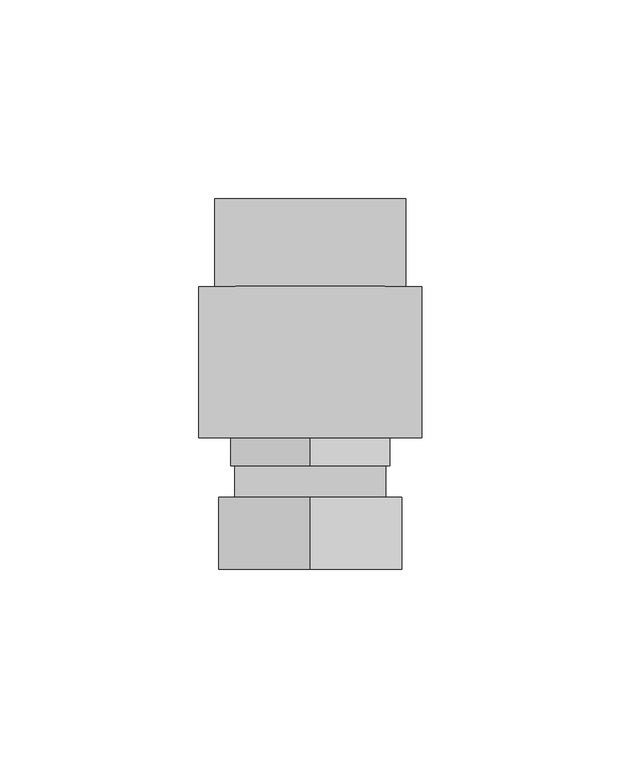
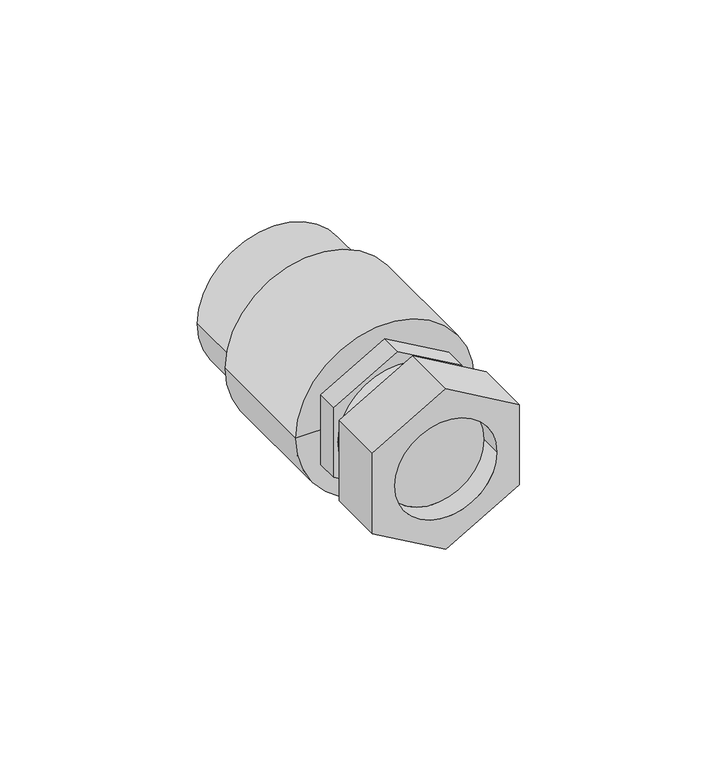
"""IFC4 building model written with IfcOpenShell, lengths in millimetres: pipe fitting geometry, NIRON RED termofusion roscado racor loco : Estándar."""

from ifc_helpers import new_model, si_unit, point, frame, origin, origin_2d, place, context, project, spatial, polyline, circle_curve, trimmed, segment, composite_curve, outline, extrude, source, transform, mapped, element, save
from ifc_brep_helpers import plane_surface, cylinder_surface, revolved_surface, advanced_brep


def pipe_fitting_3eb16f99(model_context):
    return source(origin(), model_context, "Body", "SolidModel", [
        advanced_brep(
        [(23.0, 9.0, -13.2790562), (23.0, 9.0, 13.2790562), (0.0, 9.0, 26.5581124), (-23.0, 9.0, 13.2790562), (-23.0, 9.0, -13.2790562), (0.0, 9.0, -26.5581124), (16.0, 9.0, 0.0), (-16.0, 9.0, 0.0), (23.0, 27.0, -13.2790562), (0.0, 27.0, -26.5581124), (-23.0, 27.0, -13.2790562), (-23.0, 27.0, 13.2790562), (0.0, 27.0, 26.5581124), (23.0, 27.0, 13.2790562), (-16.0, 16.0570795, 0.0), (16.0, 16.0570795, 0.0)],
        [
            (0, 1),
            (1, 2),
            (2, 3),
            (3, 4),
            (4, 5),
            (5, 0),
            (6, 7, circle_curve(frame((0.0, 9.0, 0.0), z_axis=(0.0, 1.0, 0.0), x_axis=(1.0, 0.0, 0.0)), 16.0)),
            (7, 6, circle_curve(frame((0.0, 9.0, 0.0), z_axis=(0.0, 1.0, 0.0), x_axis=(1.0, 0.0, 0.0)), 16.0)),
            (8, 9),
            (9, 10),
            (10, 11),
            (11, 12),
            (12, 13),
            (13, 8),
            (0, 8),
            (13, 1),
            (12, 2),
            (11, 3),
            (10, 4),
            (9, 5),
            (14, 15, circle_curve(frame((0.0, 16.0570795, 0.0), z_axis=(0.0, -1.0, 0.0), x_axis=(1.0, 0.0, 0.0)), 16.0)),
            (15, 14, circle_curve(frame((0.0, 16.0570795, 0.0), z_axis=(0.0, -1.0, 0.0), x_axis=(1.0, 0.0, 0.0)), 16.0)),
            (14, 7),
            (6, 15),
        ],
        [
            plane_surface(frame((0.0, 9.0, 0.0), z_axis=(0.0, -1.0, 0.0), x_axis=(0.0, 0.0, 1.0))),
            plane_surface(frame((0.0, 27.0, 0.0), z_axis=(0.0, 1.0, 0.0), x_axis=(0.0, 0.0, 1.0))),
            plane_surface(frame((23.0, 9.0, -13.2790562), z_axis=(1.0, 0.0, 0.0), x_axis=(0.0, 1.0, 0.0))),
            plane_surface(frame((23.0, 9.0, 13.2790562), z_axis=(0.4999999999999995, 0.0, 0.866025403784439), x_axis=(0.0, 1.0, 0.0))),
            plane_surface(frame((0.0, 9.0, 26.5581124), z_axis=(-0.49999999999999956, 0.0, 0.8660254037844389), x_axis=(0.0, 1.0, 0.0))),
            plane_surface(frame((-23.0, 9.0, 13.2790562), z_axis=(-1.0, 0.0, 0.0), x_axis=(0.0, 1.0, 0.0))),
            plane_surface(frame((-23.0, 9.0, -13.2790562), z_axis=(-0.49999999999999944, 0.0, -0.866025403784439), x_axis=(0.0, 1.0, 0.0))),
            plane_surface(frame((0.0, 9.0, -26.5581124), z_axis=(0.49999999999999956, 0.0, -0.8660254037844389), x_axis=(0.0, 1.0, 0.0))),
            plane_surface(frame((16.0, 16.0570795, 0.0), z_axis=(0.0, -1.0, 0.0), x_axis=(0.0, 0.0, -1.0))),
            revolved_surface(polyline([(16.0, 9.0, 0.0), (16.0, 16.0570795, 0.0)]), (0.0, 16.0570795, 0.0), (0.0, -1.0, 0.0)),
        ],
        [
            (0, [[1, 2, 3, 4, 5, 6], [7, 8]]),
            (1, [[9, 10, 11, 12, 13, 14]]),
            (2, [[-1, 15, -14, 16]]),
            (3, [[-2, -16, -13, 17]]),
            (4, [[-3, -17, -12, 18]]),
            (5, [[-4, -18, -11, 19]]),
            (6, [[-5, -19, -10, 20]]),
            (7, [[-6, -20, -9, -15]]),
            (8, [[21, 22]]),
            (9, [[-21, 23, -7, 24]]),
            (9, [[-22, -24, -8, -23]]),
        ],
    ),
        extrude(outline(polyline([(-11.5470054, 20.0), (11.5470054, 20.0), (23.0940108, 0.0), (11.5470054, -20.0), (-11.5470054, -20.0), (-23.0940108, 0.0), (-11.5470054, 20.0)])), frame((0.0, 35.0, 0.0), z_axis=(0.0, 1.0, 0.0), x_axis=(0.0, 0.0, 1.0)), (0.0, 0.0, 1.0), 7.0),
        extrude(outline(composite_curve([segment(trimmed(circle_curve(origin_2d(), 19.0), [point((0.0, -19.0))], [point((0.0, 19.0))], False, "CARTESIAN"), True, "CONTINUOUS"), segment(trimmed(circle_curve(origin_2d(), 19.0), [point((0.0, 19.0))], [point((0.0, -19.0))], False, "CARTESIAN"), True, "CONTINUOUS")], self_intersect=False)), frame((0.0, 27.0, 0.0), z_axis=(0.0, 1.0, 0.0), x_axis=(0.0, 0.0, 1.0)), (0.0, 0.0, 1.0), 8.0),
        advanced_brep(
        [(24.0, 102.0, 0.0), (-24.0, 102.0, 0.0), (0.0, 102.0, 0.0), (28.0, 42.0, 0.0), (-28.0, 42.0, 0.0), (-28.0, 80.0, 0.0), (28.0, 80.0, 0.0), (0.0, 42.0, 0.0), (24.0, 80.0, 0.0), (-24.0, 80.0, 0.0)],
        [
            (0, 1, circle_curve(frame((0.0, 102.0, 0.0), z_axis=(0.0, 1.0, 0.0), x_axis=(-1.0, 0.0, 0.0)), 24.0)),
            (1, 2),
            (2, 0),
            (1, 0, circle_curve(frame((0.0, 102.0, 0.0), z_axis=(0.0, 1.0, 0.0), x_axis=(-1.0, 0.0, 0.0)), 24.0)),
            (3, 4, circle_curve(frame((0.0, 42.0, 0.0), z_axis=(0.0, 1.0, 0.0), x_axis=(-1.0, 0.0, 0.0)), 28.0)),
            (4, 5),
            (5, 6, circle_curve(frame((0.0, 80.0, 0.0), z_axis=(0.0, -1.0, 0.0), x_axis=(-1.0, 0.0, 0.0)), 28.0)),
            (6, 3),
            (4, 3, circle_curve(frame((0.0, 42.0, 0.0), z_axis=(0.0, 1.0, 0.0), x_axis=(-1.0, 0.0, 0.0)), 28.0)),
            (6, 5, circle_curve(frame((0.0, 80.0, 0.0), z_axis=(0.0, -1.0, 0.0), x_axis=(-1.0, 0.0, 0.0)), 28.0)),
            (7, 4),
            (3, 7),
            (8, 9, circle_curve(frame((0.0, 80.0, 0.0), z_axis=(0.0, 1.0, 0.0), x_axis=(-1.0, 0.0, 0.0)), 24.0)),
            (9, 1),
            (0, 8),
            (9, 8, circle_curve(frame((0.0, 80.0, 0.0), z_axis=(0.0, 1.0, 0.0), x_axis=(-1.0, 0.0, 0.0)), 24.0)),
            (5, 9),
            (8, 6),
        ],
        [
            plane_surface(frame((0.0, 102.0, 0.0), z_axis=(0.0, 1.0, 0.0), x_axis=(-1.0, 0.0, 0.0))),
            cylinder_surface(frame((0.0, 112.0, 0.0), z_axis=(0.0, -1.0, 0.0), x_axis=(-1.0, 0.0, 0.0)), 28.0),
            plane_surface(frame((0.0, 42.0, 0.0), z_axis=(0.0, -1.0, 0.0), x_axis=(-1.0, 0.0, 0.0))),
            cylinder_surface(frame((0.0, 112.0, 0.0), z_axis=(0.0, -1.0, 0.0), x_axis=(-1.0, 0.0, 0.0)), 24.0),
            plane_surface(frame((0.0, 80.0, 0.0), z_axis=(0.0, 1.0, 0.0), x_axis=(-1.0, 0.0, 0.0))),
        ],
        [
            (0, [[1, 2, 3]]),
            (0, [[4, -3, -2]]),
            (1, [[5, 6, 7, 8]]),
            (1, [[9, -8, 10, -6]]),
            (2, [[11, -5, 12]]),
            (2, [[-12, -9, -11]]),
            (3, [[13, 14, -1, 15]]),
            (3, [[16, -15, -4, -14]]),
            (4, [[-7, 17, -13, 18]]),
            (4, [[-10, -18, -16, -17]]),
        ],
    ),
    ])


if __name__ == "__main__":
    model = new_model("IFC4")
    model_context = context("Model", 3, world=origin())
    ifc_project = project(units=[si_unit("LENGTHUNIT", "METRE", prefix="MILLI")], contexts=[model_context])
    site = spatial("IfcSite", under=ifc_project)
    building = spatial("IfcBuilding", under=site)
    placement = place(None, origin())
    pipe_fitting_shape = pipe_fitting_3eb16f99(model_context)
    element("IfcPipeFitting", 1, ObjectType="NIRON RED termofusion roscado racor loco : Estándar", at=placement, inside=building, context=model_context, shape_type="MappedRepresentation", body=[
        mapped(pipe_fitting_shape, transform((0.0, 0.0, 0.0), x_axis=(1.0, 0.0, 0.0), y_axis=(0.0, 1.0, 0.0), z_axis=(0.0, 0.0, 1.0))),
    ])
    save(model, "model.ifc")
